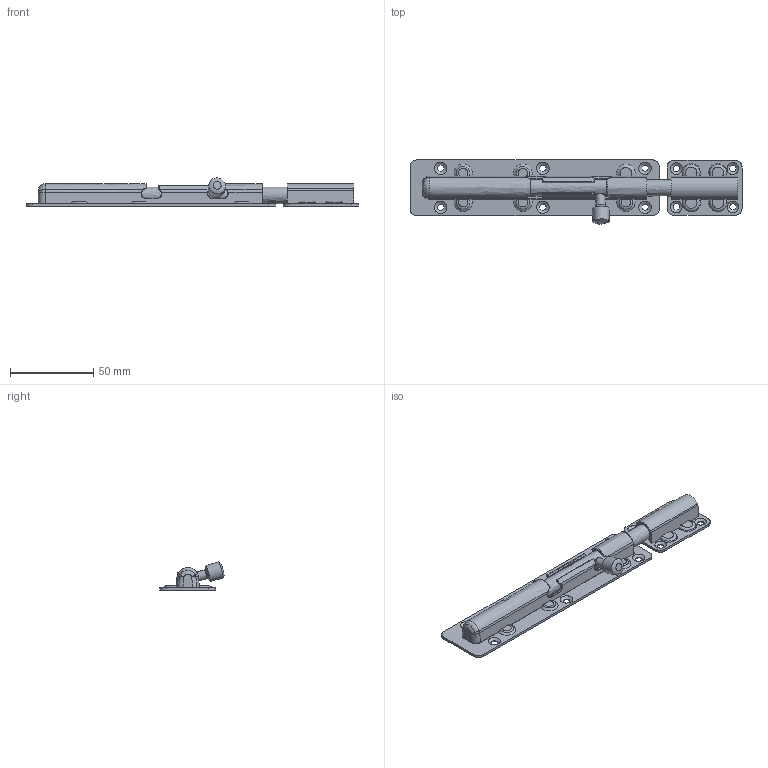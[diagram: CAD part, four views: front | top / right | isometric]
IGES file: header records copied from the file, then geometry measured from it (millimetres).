
Global section: file name: DR_ODS1-7S; native system: Autodesk Inventor 2015; preprocessor: unknown; author: Administrator; date: 20170919.155126; units: millimetre
Bounding box: 199.89 x 38.62 x 17 mm (x, y, z)
Volume: 28720.2 mm3; surface area: 29277 mm2
Topology: 5 solids, 5 shells, 550 faces, 1389 edges, 840 vertices
Faces by surface type: bspline 550
